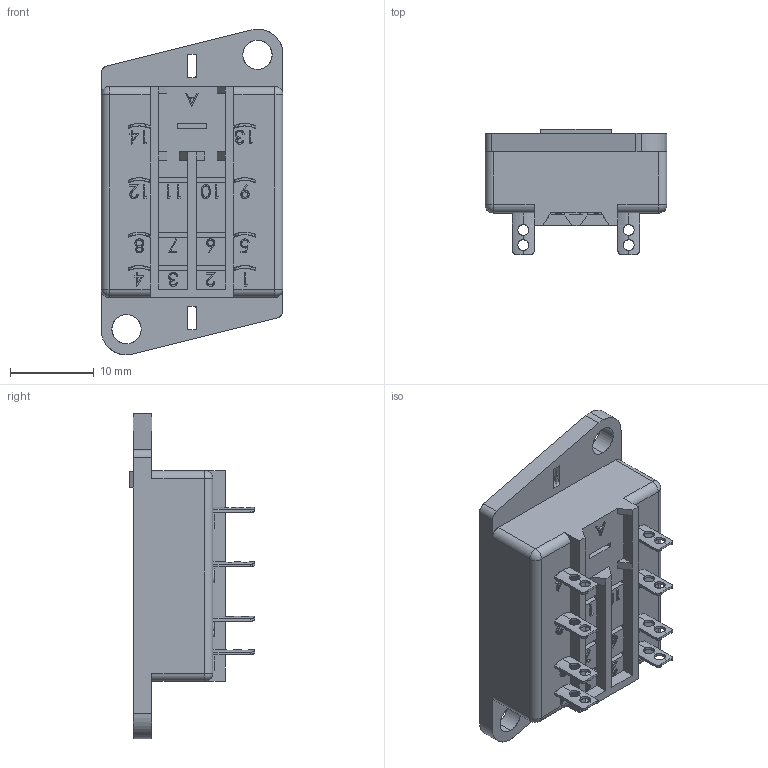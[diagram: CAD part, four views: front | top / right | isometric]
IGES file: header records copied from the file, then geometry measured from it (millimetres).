
Start section: SolidWorks IGES file using analytic representation for surfaces
Global section: file name: D:\X - Arquivos\PROEX\Empresas\P11 - METALTEX\01 - Produtos\IGES\7ª remessa\2ª etapa\MSO2TF.IGS; native system: SolidWorks 2012; preprocessor: SolidWorks 2012; author: Usuario; date: 190912.135715; units: millimetre
Bounding box: 21.75 x 15 x 38.93 mm (x, y, z)
Surface area: 3615.1 mm2 (no closed solid volume)
Topology: 0 solids, 0 shells, 622 faces, 6186 edges, 6182 vertices
Faces by surface type: bspline 517, revolution 105
